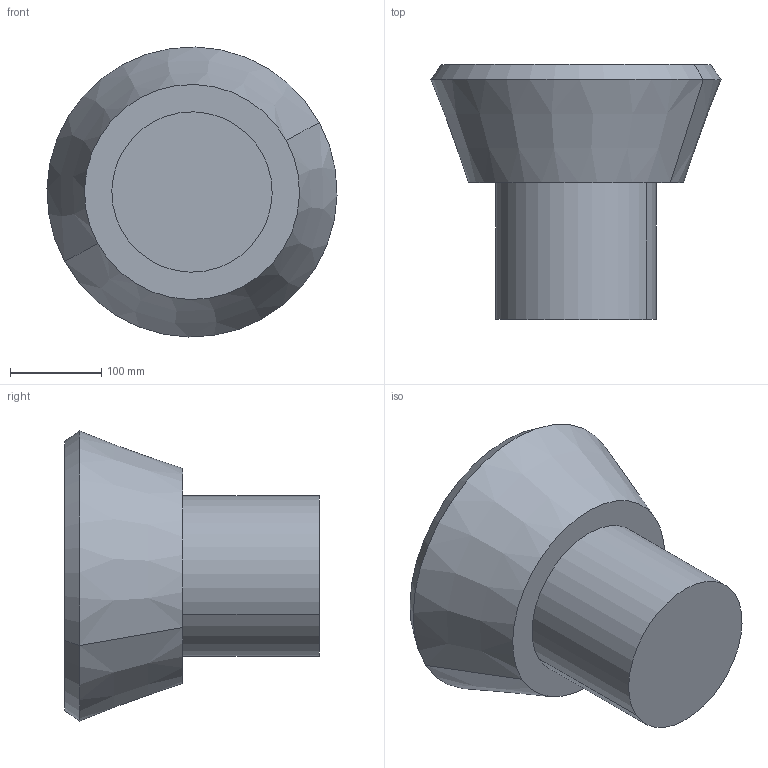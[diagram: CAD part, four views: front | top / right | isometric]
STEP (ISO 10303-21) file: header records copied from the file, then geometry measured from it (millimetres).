
FILE_DESCRIPTION(('CATIA V5 STEP Exchange'),'2;1');
FILE_NAME('C:\_Andres\UNIVERSIDAD\IQS\ASIGNATURAS\DAO\EXF\EXF-15161c\1original\Vila_Vaquer_Ej09-optimiza_v28.stp','2016-03-04T21:55:31+00:00',('none'),('none'),'CATIA Version 5 Release 20 SP 1 (IN-10)','CATIA V5 STEP AP203','none');
FILE_SCHEMA(('CONFIG_CONTROL_DESIGN'));
Length unit declared in the file: millimetre
Products named in the file (1): Vila_Vaquer_Ej09-optimiza_v28
Bounding box: 318.38 x 279.68 x 318.38 mm (x, y, z)
Volume: 11733225.1 mm3; surface area: 323971.7 mm2
Topology: 1 solids, 2 shells, 13 faces, 22 edges, 14 vertices
Faces by surface type: plane 5, cylinder 4, cone 4
Entity records: 324 total; most frequent: CARTESIAN_POINT 47, ORIENTED_EDGE 44, DIRECTION 42, AXIS2_PLACEMENT_3D 25, EDGE_CURVE 22, CIRCLE 14, EDGE_LOOP 14, VERTEX_POINT 14
